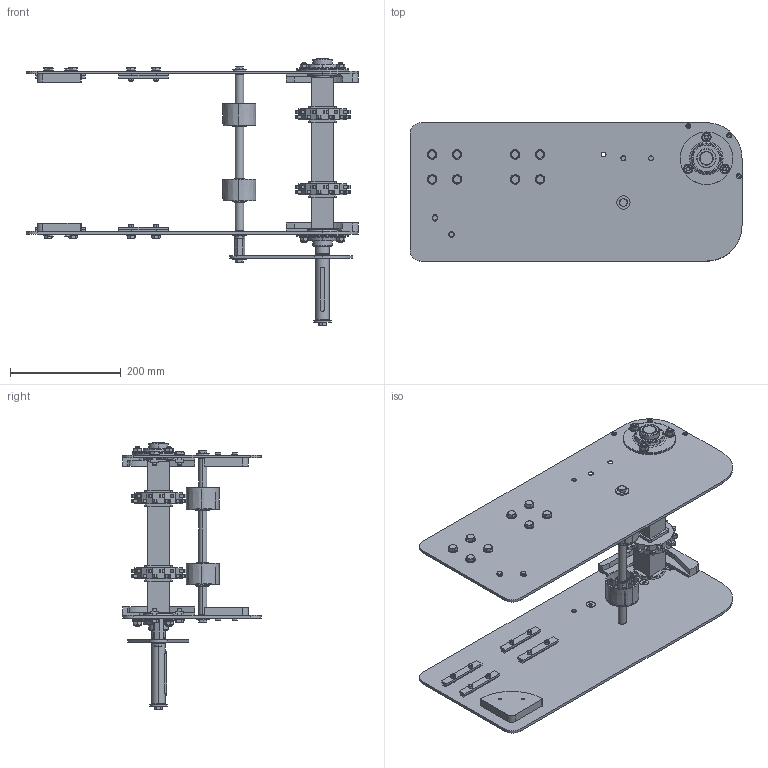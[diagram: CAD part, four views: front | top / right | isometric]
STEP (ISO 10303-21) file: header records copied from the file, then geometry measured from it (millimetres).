
FILE_DESCRIPTION (( 'STEP AP203' ), '1' );
FILE_NAME ('3000.250.163.STEP', '2018-02-28T10:50:32', ( 'Localadmin' ), ( 'Microsoft' ), 'SwSTEP 2.0', 'SolidWorks 2016', '' );
FILE_SCHEMA (( 'CONFIG_CONTROL_DESIGN' ));
Length unit declared in the file: millimetre
Products named in the file (28): circlip for shafts normal_din_Circlip DIN 471 - 8 x 0.8; RONDELLE FASCIA LARGA UNI 6593 INOX_8.4x32 UNI 6593 INOX; 3000.000.005; M25S1240Q6; VITI TSEI UNI 5933 INOX_0412UNI5933A2; 3000.000.006; RONDELLE UNI 6592 INOX_5.3x10 UNI 6592 INOX; 3000.000.007; 251-82205; VITI TE UNI 5739 INOX_M5x20 UNI 5739 INOX; 084.307.005; VITI TSEI UNI 5933 INOX_0820UNI5933A2; circlip for shafts normal_din_Circlip DIN 471 - 16 x 1; CHIAVETTE_A 8x7x80 UNI 6604-69; RONDELLE UNI 6592 INOX_8.4x18 UNI 6592 INOX; 3000.000.001; RONDELLE FASCIA LARGA UNI 6593_8.4x24 UNI 6593; 084.802.045; DADI ESAGONALI NORMALI UNI 5588 INOX_M8 UNI 558 INOX; 3000.000.002; VITI TE UNI 5739_M8x16 UNI 5739; 084.808.005-1; VITI TE UNI 5739 INOX_M8x20 UNI 5739 INOX; 3000.250.001; 3000.250.163; SBPF 205; RONDELLE FASCIA LARGA UNI 6593 INOX_8.4x24 UNI 6593 INOX; 3000.250.008
Assembly tree (107 placements, depth 2):
  3000.250.163
    3000.000.001
    3000.000.002
    3000.250.001
    3000.250.008
    3000.000.005  x2
    3000.000.006
    3000.000.007
    084.307.005  x8
    CHIAVETTE_A 8x7x80 UNI 6604-69
    084.802.045
    084.808.005-1
    SBPF 205  x2
    circlip for shafts normal_din_Circlip DIN 471 - 8 x 0.8  x5
    M25S1240Q6  x2
    251-82205  x2
    VITI TSEI UNI 5933 INOX_0820UNI5933A2  x7
    RONDELLE UNI 6592 INOX_8.4x18 UNI 6592 INOX  x22
    DADI ESAGONALI NORMALI UNI 5588 INOX_M8 UNI 558 INOX  x6
    VITI TE UNI 5739 INOX_M8x20 UNI 5739 INOX  x19
    RONDELLE FASCIA LARGA UNI 6593 INOX_8.4x24 UNI 6593 INOX  x2
    RONDELLE FASCIA LARGA UNI 6593 INOX_8.4x32 UNI 6593 INOX
    VITI TSEI UNI 5933 INOX_0412UNI5933A2  x6
    RONDELLE UNI 6592 INOX_5.3x10 UNI 6592 INOX  x4
    VITI TE UNI 5739 INOX_M5x20 UNI 5739 INOX  x4
    circlip for shafts normal_din_Circlip DIN 471 - 16 x 1  x4
    RONDELLE FASCIA LARGA UNI 6593_8.4x24 UNI 6593
    VITI TE UNI 5739_M8x16 UNI 5739
Bounding box: 600 x 250 x 481.33 mm (x, y, z)
Volume: 2855476.2 mm3; surface area: 1055068 mm2
Topology: 159 solids, 159 shells, 2588 faces, 6180 edges, 3959 vertices
Faces by surface type: plane 1308, cylinder 776, cone 432, bspline 36, sphere 20, torus 16
Entity records: 36505 total; most frequent: CARTESIAN_POINT 6429, DIRECTION 5434, ORIENTED_EDGE 4946, EDGE_CURVE 2473, AXIS2_PLACEMENT_3D 2019, VERTEX_POINT 1606, VECTOR 1396, LINE 1396
